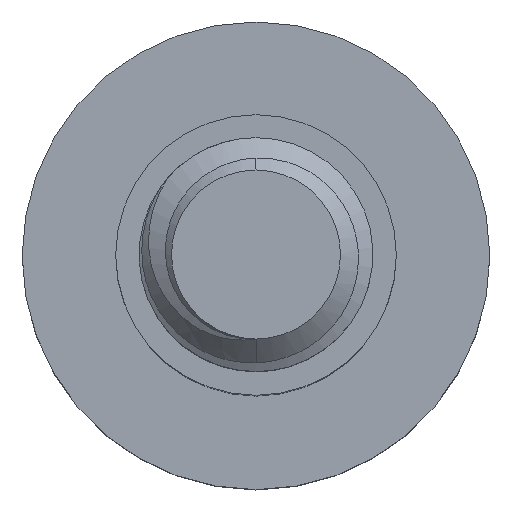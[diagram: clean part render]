
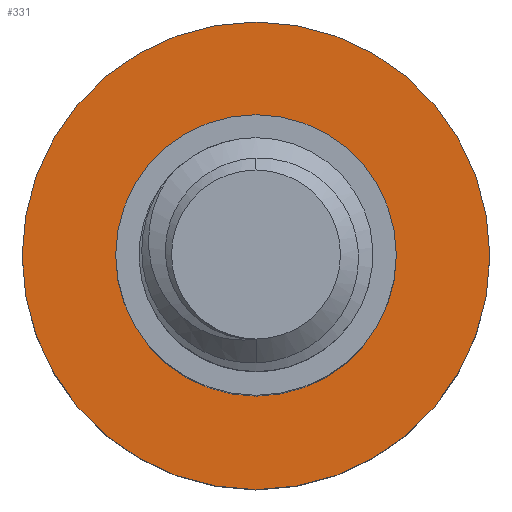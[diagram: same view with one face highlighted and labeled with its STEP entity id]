
A CAD part, top view. The second image highlights one B-rep face of the part: STEP entity #331.
In plain terms, the highlighted planar face has unit normal (0, 0, 1).
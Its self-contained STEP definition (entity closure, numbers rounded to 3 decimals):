
#8 = VERTEX_POINT ( 'NONE', #176 ) ;
#9 = CIRCLE ( 'NONE', #1743, 5. ) ;
#176 = CARTESIAN_POINT ( 'NONE',  ( 5., 0., -10. ) ) ;
#197 = CARTESIAN_POINT ( 'NONE',  ( -5., 0., -10. ) ) ;
#331 = ADVANCED_FACE ( 'NONE', ( #641, #1562 ), #1193, .F. ) ;
#428 = DIRECTION ( 'NONE',  ( -1., 0., 0. ) ) ;
#429 = CARTESIAN_POINT ( 'NONE',  ( -3., 0., -10. ) ) ;
#432 = DIRECTION ( 'NONE',  ( 0., 0., -1. ) ) ;
#470 = DIRECTION ( 'NONE',  ( -1., 0., 0. ) ) ;
#482 = EDGE_CURVE ( 'NONE', #2304, #8, #9, .T. ) ;
#526 = AXIS2_PLACEMENT_3D ( 'NONE', #1182, #432, #785 ) ;
#562 = CARTESIAN_POINT ( 'NONE',  ( 3., 0., -10. ) ) ;
#612 = VERTEX_POINT ( 'NONE', #562 ) ;
#641 = FACE_BOUND ( 'NONE', #2177, .T. ) ;
#785 = DIRECTION ( 'NONE',  ( -1., 0., 0. ) ) ;
#791 = AXIS2_PLACEMENT_3D ( 'NONE', #1406, #1368, #470 ) ;
#792 = CARTESIAN_POINT ( 'NONE',  ( 0., 0., -10. ) ) ;
#836 = AXIS2_PLACEMENT_3D ( 'NONE', #2297, #1532, #428 ) ;
#925 = ORIENTED_EDGE ( 'NONE', *, *, #1374, .T. ) ;
#976 = VERTEX_POINT ( 'NONE', #429 ) ;
#1080 = EDGE_LOOP ( 'NONE', ( #1307, #1746 ) ) ;
#1182 = CARTESIAN_POINT ( 'NONE',  ( 0., 0., -10. ) ) ;
#1193 = PLANE ( 'NONE',  #526 ) ;
#1220 = DIRECTION ( 'NONE',  ( 0., 0., -1. ) ) ;
#1307 = ORIENTED_EDGE ( 'NONE', *, *, #2377, .F. ) ;
#1368 = DIRECTION ( 'NONE',  ( 0., 0., -1. ) ) ;
#1374 = EDGE_CURVE ( 'NONE', #976, #612, #2369, .T. ) ;
#1406 = CARTESIAN_POINT ( 'NONE',  ( 0., 0., -10. ) ) ;
#1408 = CIRCLE ( 'NONE', #1901, 5. ) ;
#1460 = DIRECTION ( 'NONE',  ( -1., 0., 0. ) ) ;
#1532 = DIRECTION ( 'NONE',  ( 0., 0., -1. ) ) ;
#1562 = FACE_OUTER_BOUND ( 'NONE', #1080, .T. ) ;
#1711 = DIRECTION ( 'NONE',  ( -1., 0., 0. ) ) ;
#1743 = AXIS2_PLACEMENT_3D ( 'NONE', #2192, #1220, #1460 ) ;
#1746 = ORIENTED_EDGE ( 'NONE', *, *, #482, .F. ) ;
#1854 = EDGE_CURVE ( 'NONE', #612, #976, #1862, .T. ) ;
#1862 = CIRCLE ( 'NONE', #836, 3. ) ;
#1901 = AXIS2_PLACEMENT_3D ( 'NONE', #792, #2270, #1711 ) ;
#2049 = ORIENTED_EDGE ( 'NONE', *, *, #1854, .T. ) ;
#2177 = EDGE_LOOP ( 'NONE', ( #925, #2049 ) ) ;
#2192 = CARTESIAN_POINT ( 'NONE',  ( 0., 0., -10. ) ) ;
#2270 = DIRECTION ( 'NONE',  ( 0., 0., -1. ) ) ;
#2297 = CARTESIAN_POINT ( 'NONE',  ( 0., 0., -10. ) ) ;
#2304 = VERTEX_POINT ( 'NONE', #197 ) ;
#2369 = CIRCLE ( 'NONE', #791, 3. ) ;
#2377 = EDGE_CURVE ( 'NONE', #8, #2304, #1408, .T. ) ;
